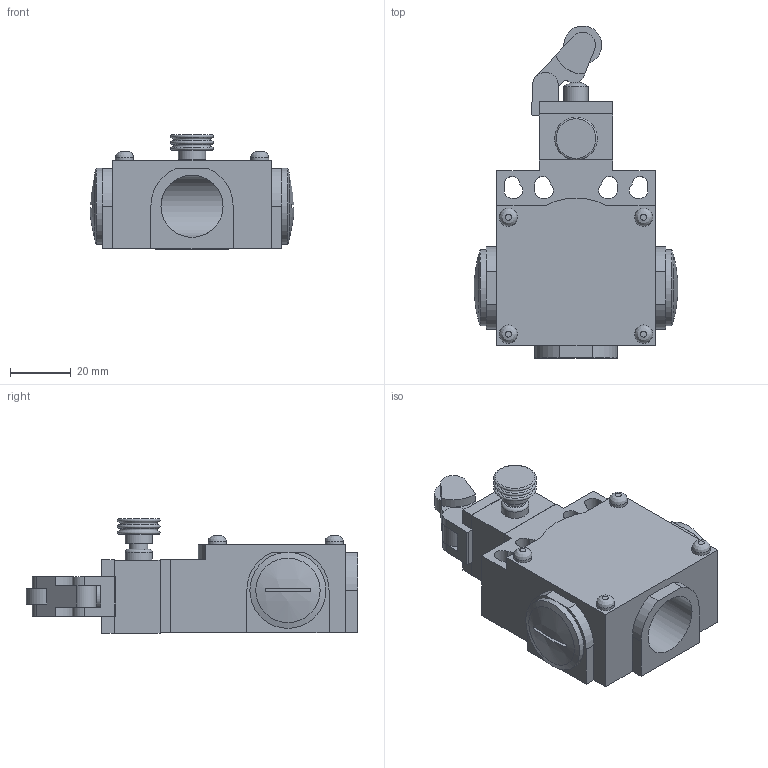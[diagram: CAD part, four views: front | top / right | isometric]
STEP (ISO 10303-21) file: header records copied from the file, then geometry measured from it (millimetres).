
FILE_DESCRIPTION((''),'2;1');
FILE_NAME('D:\Documenti_D\Corrispondenza\Comepi\Catalogo da fare\Modelli Nov 2011\DM e CM\STEP\DM1-R31.iam.step','2011-11-17T12:01:20',(''),(''),'Autodesk Inventor 2010','Autodesk Inventor 2010','');
FILE_SCHEMA(('AUTOMOTIVE_DESIGN { 1 0 10303 214 1 1 1 1 }'));
Length unit declared in the file: millimetre
Products named in the file (9): DM1-R31; DM1; tappo; R31.iam; T31_1; T31_2; T31_3; R
Assembly tree (9 placements, depth 3):
  DM1-R31
    DM1
      DM1
      tappo  x2
    R31.iam
      T31_1
      T31_2
      T31_3
      R
Bounding box: 66.83 x 109 x 37.5 mm (x, y, z)
Volume: 84224.4 mm3; surface area: 28330.8 mm2
Topology: 7 solids, 7 shells, 145 faces, 354 edges, 231 vertices
Faces by surface type: plane 86, cylinder 43, torus 6, bspline 4, cone 3, sphere 3
Full cylindrical faces by diameter (mm): 6 x5, 8 x2, 9 x2, 20.4 x2, 25 x2
Entity records: 4450 total; most frequent: CARTESIAN_POINT 930, DIRECTION 705, ORIENTED_EDGE 614, EDGE_CURVE 307, AXIS2_PLACEMENT_3D 250, VERTEX_POINT 215, VECTOR 205, LINE 205
